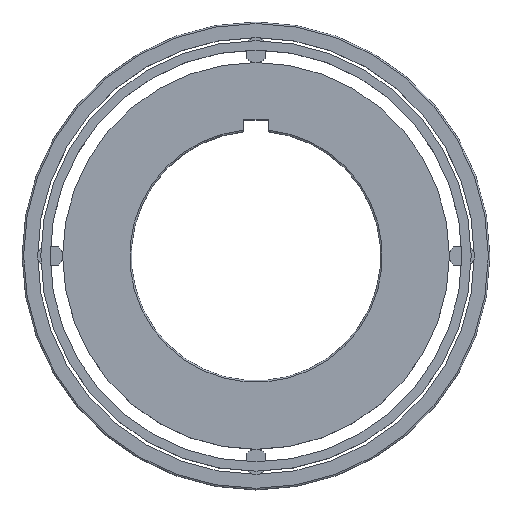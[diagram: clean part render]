
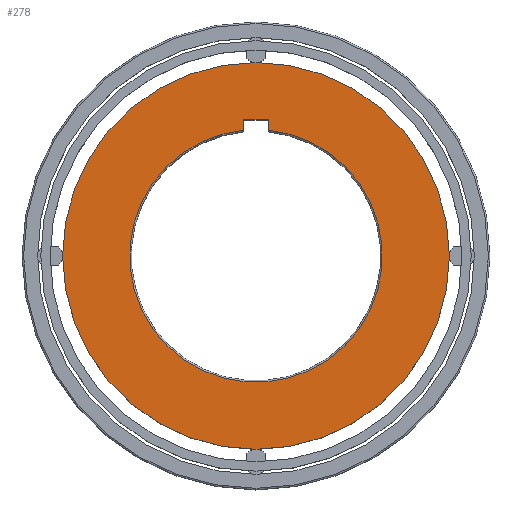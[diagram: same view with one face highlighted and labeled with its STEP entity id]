
A CAD part, top view. The second image highlights one B-rep face of the part: STEP entity #278.
In plain terms, the highlighted planar face has unit normal (0, 0, 1).
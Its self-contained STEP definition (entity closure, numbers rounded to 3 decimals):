
#278=ADVANCED_FACE('',(#532,#533),#341,.T.);
#341=PLANE('',#1199);
#384=LINE('',#1624,#458);
#385=LINE('',#1627,#459);
#386=LINE('',#1631,#460);
#458=VECTOR('',#1317,1.);
#459=VECTOR('',#1318,1.);
#460=VECTOR('',#1321,1.);
#532=FACE_BOUND('',#574,.T.);
#533=FACE_BOUND('',#575,.T.);
#574=EDGE_LOOP('',(#662));
#575=EDGE_LOOP('',(#663,#664,#665,#666));
#662=ORIENTED_EDGE('',*,*,#1014,.T.);
#663=ORIENTED_EDGE('',*,*,#1015,.T.);
#664=ORIENTED_EDGE('',*,*,#1016,.T.);
#665=ORIENTED_EDGE('',*,*,#1017,.T.);
#666=ORIENTED_EDGE('',*,*,#1018,.T.);
#922=VERTEX_POINT('',#1623);
#923=VERTEX_POINT('',#1625);
#924=VERTEX_POINT('',#1626);
#925=VERTEX_POINT('',#1628);
#926=VERTEX_POINT('',#1630);
#1014=EDGE_CURVE('',#922,#922,#1144,.T.);
#1015=EDGE_CURVE('',#923,#924,#384,.T.);
#1016=EDGE_CURVE('',#924,#925,#385,.T.);
#1017=EDGE_CURVE('',#925,#926,#1145,.T.);
#1018=EDGE_CURVE('',#926,#923,#386,.T.);
#1144=CIRCLE('',#1197,31.);
#1145=CIRCLE('',#1198,20.25);
#1197=AXIS2_PLACEMENT_3D('',#1622,#1315,#1316);
#1198=AXIS2_PLACEMENT_3D('',#1629,#1319,#1320);
#1199=AXIS2_PLACEMENT_3D('',#1632,#1322,#1323);
#1315=DIRECTION('',(0.,0.,1.));
#1316=DIRECTION('',(1.,0.,0.));
#1317=DIRECTION('',(1.,0.,0.));
#1318=DIRECTION('',(0.,-1.,0.));
#1319=DIRECTION('',(0.,0.,-1.));
#1320=DIRECTION('',(1.,0.,0.));
#1321=DIRECTION('',(0.,1.,0.));
#1322=DIRECTION('',(0.,0.,1.));
#1323=DIRECTION('',(1.,0.,0.));
#1622=CARTESIAN_POINT('',(0.,0.,12.));
#1623=CARTESIAN_POINT('',(31.,0.,12.));
#1624=CARTESIAN_POINT('',(-2.,21.8,12.));
#1625=CARTESIAN_POINT('',(-2.,21.8,12.));
#1626=CARTESIAN_POINT('',(2.,21.8,12.));
#1627=CARTESIAN_POINT('',(2.,21.8,12.));
#1628=CARTESIAN_POINT('',(2.,20.151,12.));
#1629=CARTESIAN_POINT('',(0.,0.,12.));
#1630=CARTESIAN_POINT('',(-2.,20.151,12.));
#1631=CARTESIAN_POINT('',(-2.,18.2,12.));
#1632=CARTESIAN_POINT('',(0.,0.,12.));
